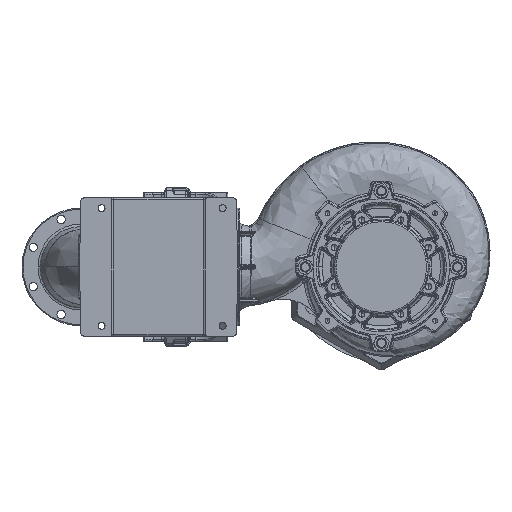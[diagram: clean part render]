
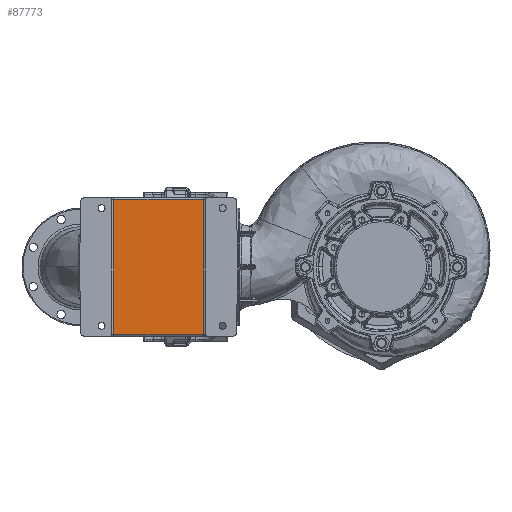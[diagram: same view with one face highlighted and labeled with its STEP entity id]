
A CAD part, front view. The second image highlights one B-rep face of the part: STEP entity #87773.
In plain terms, the highlighted planar face has unit normal (0, -1, 0).
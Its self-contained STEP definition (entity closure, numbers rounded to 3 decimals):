
#11627 = VERTEX_POINT ( 'NONE', #256186 ) ;
#23749 = EDGE_CURVE ( 'NONE', #11627, #202271, #109168, .T. ) ;
#43160 = VECTOR ( 'NONE', #312727, 1000. ) ;
#55286 = ORIENTED_EDGE ( 'NONE', *, *, #255857, .T. ) ;
#55622 = VECTOR ( 'NONE', #143724, 1000. ) ;
#62780 = ORIENTED_EDGE ( 'NONE', *, *, #23749, .T. ) ;
#64896 = VERTEX_POINT ( 'NONE', #92236 ) ;
#71530 = FACE_OUTER_BOUND ( 'NONE', #266694, .T. ) ;
#87597 = ORIENTED_EDGE ( 'NONE', *, *, #299221, .T. ) ;
#87773 = ADVANCED_FACE ( 'NONE', ( #71530 ), #319254, .F. ) ;
#92236 = CARTESIAN_POINT ( 'NONE',  ( -774., -651.702, -195. ) ) ;
#103979 = LINE ( 'NONE', #168127, #294083 ) ;
#109168 = LINE ( 'NONE', #182845, #43160 ) ;
#110753 = LINE ( 'NONE', #203022, #168864 ) ;
#118730 = CARTESIAN_POINT ( 'NONE',  ( -509., -651.702, -195. ) ) ;
#121613 = ORIENTED_EDGE ( 'NONE', *, *, #259310, .T. ) ;
#123006 = DIRECTION ( 'NONE',  ( 0., 1., 0. ) ) ;
#136070 = AXIS2_PLACEMENT_3D ( 'NONE', #271533, #123006, #296501 ) ;
#143724 = DIRECTION ( 'NONE',  ( 1., 0., 0. ) ) ;
#153490 = VERTEX_POINT ( 'NONE', #162993 ) ;
#162993 = CARTESIAN_POINT ( 'NONE',  ( -774., -651.702, 195. ) ) ;
#168127 = CARTESIAN_POINT ( 'NONE',  ( -774., -651.702, -200. ) ) ;
#168864 = VECTOR ( 'NONE', #204050, 1000. ) ;
#182845 = CARTESIAN_POINT ( 'NONE',  ( -514., -651.702, 200. ) ) ;
#202271 = VERTEX_POINT ( 'NONE', #233560 ) ;
#203022 = CARTESIAN_POINT ( 'NONE',  ( -779., -651.702, 195. ) ) ;
#204050 = DIRECTION ( 'NONE',  ( -1., 0., 0. ) ) ;
#233560 = CARTESIAN_POINT ( 'NONE',  ( -514., -651.702, 195. ) ) ;
#241844 = DIRECTION ( 'NONE',  ( 0., 0., -1. ) ) ;
#255857 = EDGE_CURVE ( 'NONE', #64896, #11627, #319183, .T. ) ;
#256186 = CARTESIAN_POINT ( 'NONE',  ( -514., -651.702, -195. ) ) ;
#259310 = EDGE_CURVE ( 'NONE', #202271, #153490, #110753, .T. ) ;
#266694 = EDGE_LOOP ( 'NONE', ( #55286, #62780, #121613, #87597 ) ) ;
#271533 = CARTESIAN_POINT ( 'NONE',  ( -779., -651.702, -230. ) ) ;
#294083 = VECTOR ( 'NONE', #241844, 1000. ) ;
#296501 = DIRECTION ( 'NONE',  ( 0., 0., 1. ) ) ;
#299221 = EDGE_CURVE ( 'NONE', #153490, #64896, #103979, .T. ) ;
#312727 = DIRECTION ( 'NONE',  ( 0., 0., 1. ) ) ;
#319183 = LINE ( 'NONE', #118730, #55622 ) ;
#319254 = PLANE ( 'NONE',  #136070 ) ;
